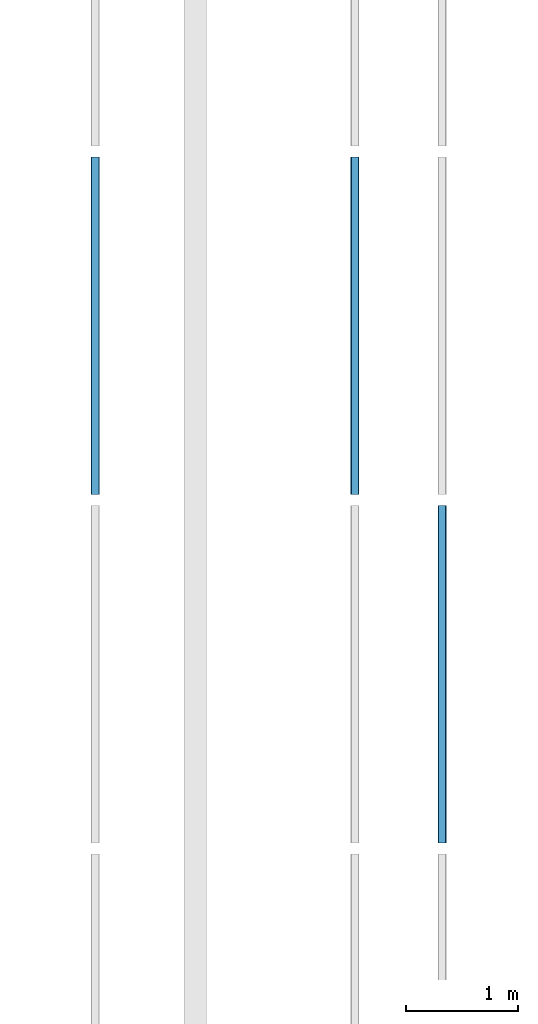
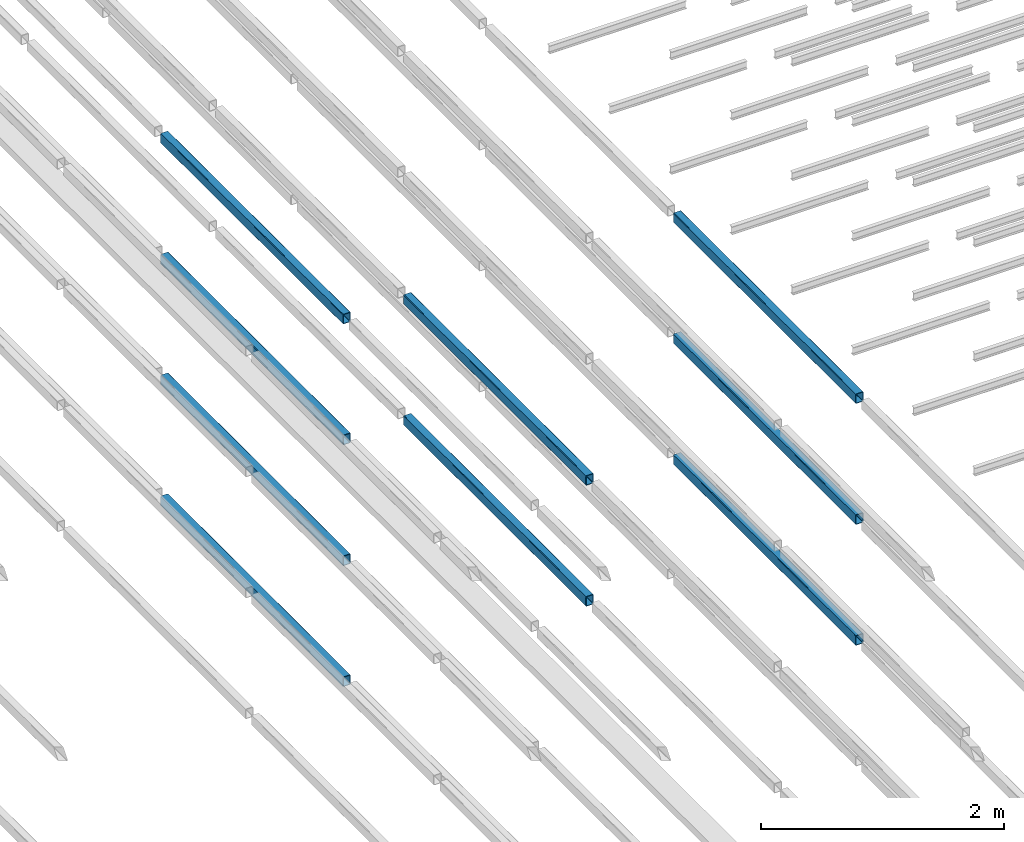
# One storey, part 76 of 290: 9 beams.
"""IFC2X3 building model written with IfcOpenShell, lengths in metres."""

from ifc_helpers import new_model, entity, si_unit, converted_unit, derived_unit, direction, frame, frame_2d, origin, place, context, subcontext, project, spatial, polyline, circle_curve, parameter, trimmed, segment, composite_curve, outline, extrude, material, type_object, element, save


model = new_model("IFC2X3")

# Units and contexts
model_context = context("Model", 3, precision=1e-05, world=origin(), true_north=direction((6.12303176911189e-17, 1.0)))
body_context = subcontext(model_context, "Body", "Model", "MODEL_VIEW")
ifc_project = project(units=[si_unit("LENGTHUNIT", "METRE"), si_unit("AREAUNIT", "SQUARE_METRE"), si_unit("VOLUMEUNIT", "CUBIC_METRE"), converted_unit("PLANEANGLEUNIT", "DEGREE", entity("IfcRatioMeasure", 0.0174532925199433), si_unit("PLANEANGLEUNIT", "RADIAN"), dimensions=[0, 0, 0, 0, 0, 0, 0]), si_unit("MASSUNIT", "GRAM", prefix="KILO"), derived_unit("MASSDENSITYUNIT", [(si_unit("MASSUNIT", "GRAM", prefix="KILO"), 1), (si_unit("LENGTHUNIT", "METRE"), -3)]), derived_unit("MOMENTOFINERTIAUNIT", [(si_unit("LENGTHUNIT", "METRE"), 4)]), si_unit("TIMEUNIT", "SECOND"), si_unit("FREQUENCYUNIT", "HERTZ"), si_unit("THERMODYNAMICTEMPERATUREUNIT", "DEGREE_CELSIUS"), derived_unit("THERMALTRANSMITTANCEUNIT", [(si_unit("MASSUNIT", "GRAM", prefix="KILO"), 1), (si_unit("THERMODYNAMICTEMPERATUREUNIT", "KELVIN"), -1), (si_unit("TIMEUNIT", "SECOND"), -3)]), derived_unit("VOLUMETRICFLOWRATEUNIT", [(si_unit("LENGTHUNIT", "METRE"), 3), (si_unit("TIMEUNIT", "SECOND"), -1)]), si_unit("ELECTRICCURRENTUNIT", "AMPERE"), si_unit("ELECTRICVOLTAGEUNIT", "VOLT"), si_unit("POWERUNIT", "WATT"), si_unit("FORCEUNIT", "NEWTON", prefix="KILO"), si_unit("ILLUMINANCEUNIT", "LUX"), si_unit("LUMINOUSFLUXUNIT", "LUMEN"), si_unit("LUMINOUSINTENSITYUNIT", "CANDELA"), derived_unit("USERDEFINED", [(si_unit("MASSUNIT", "GRAM", prefix="KILO"), -1), (si_unit("LENGTHUNIT", "METRE"), -2), (si_unit("TIMEUNIT", "SECOND"), 3), (si_unit("LUMINOUSFLUXUNIT", "LUMEN"), 1)]), derived_unit("LINEARVELOCITYUNIT", [(si_unit("LENGTHUNIT", "METRE"), 1), (si_unit("TIMEUNIT", "SECOND"), -1)]), si_unit("PRESSUREUNIT", "PASCAL"), derived_unit("USERDEFINED", [(si_unit("LENGTHUNIT", "METRE"), -2), (si_unit("MASSUNIT", "GRAM", prefix="KILO"), 1), (si_unit("TIMEUNIT", "SECOND"), -2)]), derived_unit("LINEARFORCEUNIT", [(si_unit("MASSUNIT", "GRAM", prefix="KILO"), 1), (si_unit("LENGTHUNIT", "METRE"), 1), (si_unit("TIMEUNIT", "SECOND"), -2), (si_unit("LENGTHUNIT", "METRE"), -1)]), derived_unit("PLANARFORCEUNIT", [(si_unit("MASSUNIT", "GRAM", prefix="KILO"), 1), (si_unit("LENGTHUNIT", "METRE"), 1), (si_unit("TIMEUNIT", "SECOND"), -2), (si_unit("LENGTHUNIT", "METRE"), -2)])], contexts=[model_context])

# Site, building, storey
site_placement = place(None, origin())
site = spatial("IfcSite", under=ifc_project, at=site_placement, Name="Default", CompositionType="ELEMENT")
building_placement = place(site_placement, origin())
building = spatial("IfcBuilding", under=site, at=building_placement, CompositionType="ELEMENT")
storey_placement = place(building_placement, frame((0.0, 0.0, 4.0)))
storey = spatial("IfcBuildingStorey", under=building, at=storey_placement, Name="01_OG", CompositionType="ELEMENT", Elevation=4.0)

# Beams
ifc_material = material(Name="Metall - Baustahl S235 blau")
beam_type = type_object("IfcBeamType", Name="RHS Träger (EN 10219-2):RHS 100 x 75 x 5", PredefinedType="NOTDEFINED")
beam_1_placement = place(storey_placement, frame((-178.465111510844, 33.3480889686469, -1.2), z_axis=(0.0, 0.0, 1.0), x_axis=(0.0, 1.0, 0.0)))
element("IfcBeam", 1, at=beam_1_placement, inside=storey, type_object=beam_type, material=ifc_material, Name="RHS Träger (EN 10219-2):RHS 100 x 75 x 5", ObjectType="RHS Träger (EN 10219-2):RHS 100 x 75 x 5", context=body_context, shape_type="SweptSolid", body=[
    extrude(outline(composite_curve([segment(polyline([(-0.0400000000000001, -0.0374999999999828), (0.0400000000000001, -0.0374999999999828)]), True, "CONTINUOUS"), segment(trimmed(circle_curve(frame_2d((0.0400000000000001, -0.0274999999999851), x_axis=(0.0, 1.0)), 0.01), [parameter(180.0)], [parameter(270.0)], True, "PARAMETER"), True, "CONTINUOUS"), segment(polyline([(0.05, -0.0274999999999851), (0.05, 0.0274999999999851)]), True, "CONTINUOUS"), segment(trimmed(circle_curve(frame_2d((0.0400000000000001, 0.0274999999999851), x_axis=(0.0, 1.0)), 0.01), [parameter(270.0)], [parameter(4.07110999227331e-13)], True, "PARAMETER"), True, "CONTINUOUS"), segment(polyline([(0.0400000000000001, 0.0375000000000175), (-0.0400000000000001, 0.0375000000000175)]), True, "CONTINUOUS"), segment(trimmed(circle_curve(frame_2d((-0.0400000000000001, 0.0274999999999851), x_axis=(0.0, 1.0)), 0.01), [parameter(360.0)], [parameter(90.0000000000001)], True, "PARAMETER"), True, "CONTINUOUS"), segment(polyline([(-0.05, 0.0274999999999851), (-0.05, -0.0274999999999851)]), True, "CONTINUOUS"), segment(trimmed(circle_curve(frame_2d((-0.0400000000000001, -0.0274999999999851), x_axis=(0.0, 1.0)), 0.01), [parameter(90.0000000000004)], [parameter(180.0)], True, "PARAMETER"), True, "CONTINUOUS")], self_intersect=False), holes=[composite_curve([segment(trimmed(circle_curve(frame_2d((-0.0400000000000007, 0.0274999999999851), x_axis=(0.0, 1.0)), 0.005), [parameter(360.0)], [parameter(89.9999999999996)], True, "PARAMETER"), False, "CONTINUOUS"), segment(polyline([(-0.0400000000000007, 0.0325000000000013), (0.039999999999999, 0.0325000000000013)]), True, "CONTINUOUS"), segment(trimmed(circle_curve(frame_2d((0.039999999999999, 0.0274999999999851), x_axis=(0.0, 1.0)), 0.005), [parameter(270.0)], [parameter(0.0)], True, "PARAMETER"), False, "CONTINUOUS"), segment(polyline([(0.044999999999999, 0.0274999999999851), (0.044999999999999, -0.0274999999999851)]), True, "CONTINUOUS"), segment(trimmed(circle_curve(frame_2d((0.039999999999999, -0.0274999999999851), x_axis=(0.0, 1.0)), 0.005), [parameter(180.0)], [parameter(269.999999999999)], True, "PARAMETER"), False, "CONTINUOUS"), segment(polyline([(0.039999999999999, -0.0325000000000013), (-0.0400000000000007, -0.0325000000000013)]), True, "CONTINUOUS"), segment(trimmed(circle_curve(frame_2d((-0.0400000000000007, -0.0274999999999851), x_axis=(0.0, 1.0)), 0.005), [parameter(90.0000000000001)], [parameter(180.0)], True, "PARAMETER"), False, "CONTINUOUS"), segment(polyline([(-0.0450000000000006, -0.0274999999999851), (-0.0450000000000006, 0.0274999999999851)]), True, "CONTINUOUS")], self_intersect=False)]), frame((9.99999999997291e-05, -0.0375000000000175, -0.0500000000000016), z_axis=(1.0, 0.0, 0.0), x_axis=(0.0, 0.0, -1.0)), (0.0, 0.0, 1.0), 2.9998),
])
beam_2_placement = place(storey_placement, frame((-178.465111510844, 33.3480889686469, 0.0150000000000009), z_axis=(0.0, 0.0, 1.0), x_axis=(0.0, 1.0, 0.0)))
element("IfcBeam", 2, at=beam_2_placement, inside=storey, type_object=beam_type, material=ifc_material, Name="RHS Träger (EN 10219-2):RHS 100 x 75 x 5", ObjectType="RHS Träger (EN 10219-2):RHS 100 x 75 x 5", context=body_context, shape_type="SweptSolid", body=[
    extrude(outline(composite_curve([segment(polyline([(-0.0400000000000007, -0.0374999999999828), (0.0399999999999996, -0.0374999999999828)]), True, "CONTINUOUS"), segment(trimmed(circle_curve(frame_2d((0.0399999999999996, -0.0274999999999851), x_axis=(0.0, 1.0)), 0.01), [parameter(180.0)], [parameter(270.0)], True, "PARAMETER"), True, "CONTINUOUS"), segment(polyline([(0.0499999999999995, -0.0274999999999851), (0.0499999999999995, 0.0274999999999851)]), True, "CONTINUOUS"), segment(trimmed(circle_curve(frame_2d((0.0399999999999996, 0.0274999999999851), x_axis=(0.0, 1.0)), 0.01), [parameter(270.0)], [parameter(4.07110999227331e-13)], True, "PARAMETER"), True, "CONTINUOUS"), segment(polyline([(0.0399999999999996, 0.0375000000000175), (-0.0400000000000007, 0.0375000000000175)]), True, "CONTINUOUS"), segment(trimmed(circle_curve(frame_2d((-0.0400000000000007, 0.0274999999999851), x_axis=(0.0, 1.0)), 0.01), [parameter(360.0)], [parameter(90.0000000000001)], True, "PARAMETER"), True, "CONTINUOUS"), segment(polyline([(-0.0500000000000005, 0.0274999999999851), (-0.0500000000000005, -0.0274999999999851)]), True, "CONTINUOUS"), segment(trimmed(circle_curve(frame_2d((-0.0400000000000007, -0.0274999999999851), x_axis=(0.0, 1.0)), 0.01), [parameter(90.0000000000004)], [parameter(180.0)], True, "PARAMETER"), True, "CONTINUOUS")], self_intersect=False), holes=[composite_curve([segment(trimmed(circle_curve(frame_2d((-0.0400000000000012, 0.0274999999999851), x_axis=(0.0, 1.0)), 0.005), [parameter(360.0)], [parameter(89.9999999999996)], True, "PARAMETER"), False, "CONTINUOUS"), segment(polyline([(-0.0400000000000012, 0.0325000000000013), (0.0399999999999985, 0.0325000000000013)]), True, "CONTINUOUS"), segment(trimmed(circle_curve(frame_2d((0.0399999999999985, 0.0274999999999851), x_axis=(0.0, 1.0)), 0.005), [parameter(270.0)], [parameter(0.0)], True, "PARAMETER"), False, "CONTINUOUS"), segment(polyline([(0.0449999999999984, 0.0274999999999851), (0.0449999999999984, -0.0274999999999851)]), True, "CONTINUOUS"), segment(trimmed(circle_curve(frame_2d((0.0399999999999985, -0.0274999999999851), x_axis=(0.0, 1.0)), 0.005), [parameter(180.0)], [parameter(269.999999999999)], True, "PARAMETER"), False, "CONTINUOUS"), segment(polyline([(0.0399999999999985, -0.0325000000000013), (-0.0400000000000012, -0.0325000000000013)]), True, "CONTINUOUS"), segment(trimmed(circle_curve(frame_2d((-0.0400000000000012, -0.0274999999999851), x_axis=(0.0, 1.0)), 0.005), [parameter(90.0000000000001)], [parameter(180.0)], True, "PARAMETER"), False, "CONTINUOUS"), segment(polyline([(-0.0450000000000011, -0.0274999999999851), (-0.0450000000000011, 0.0274999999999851)]), True, "CONTINUOUS")], self_intersect=False)]), frame((9.99999999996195e-05, -0.0375000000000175, -0.0500000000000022), z_axis=(1.0, 0.0, 0.0), x_axis=(0.0, 0.0, -1.0)), (0.0, 0.0, 1.0), 2.9998),
])
beam_3_placement = place(storey_placement, frame((-178.465111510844, 33.3480889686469, 1.23), z_axis=(0.0, 0.0, 1.0), x_axis=(0.0, 1.0, 0.0)))
element("IfcBeam", 3, at=beam_3_placement, inside=storey, type_object=beam_type, material=ifc_material, Name="RHS Träger (EN 10219-2):RHS 100 x 75 x 5", ObjectType="RHS Träger (EN 10219-2):RHS 100 x 75 x 5", context=body_context, shape_type="SweptSolid", body=[
    extrude(outline(composite_curve([segment(polyline([(-0.0399999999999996, -0.0374999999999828), (0.0399999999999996, -0.0374999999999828)]), True, "CONTINUOUS"), segment(trimmed(circle_curve(frame_2d((0.0399999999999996, -0.0274999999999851), x_axis=(0.0, 1.0)), 0.01), [parameter(180.0)], [parameter(270.0)], True, "PARAMETER"), True, "CONTINUOUS"), segment(polyline([(0.0500000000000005, -0.0274999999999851), (0.0500000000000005, 0.0274999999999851)]), True, "CONTINUOUS"), segment(trimmed(circle_curve(frame_2d((0.0399999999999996, 0.0274999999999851), x_axis=(0.0, 1.0)), 0.01), [parameter(270.0)], [parameter(4.07110999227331e-13)], True, "PARAMETER"), True, "CONTINUOUS"), segment(polyline([(0.0399999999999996, 0.0375000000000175), (-0.0399999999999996, 0.0375000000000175)]), True, "CONTINUOUS"), segment(trimmed(circle_curve(frame_2d((-0.0399999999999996, 0.0274999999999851), x_axis=(0.0, 1.0)), 0.01), [parameter(360.0)], [parameter(90.0000000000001)], True, "PARAMETER"), True, "CONTINUOUS"), segment(polyline([(-0.0499999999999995, 0.0274999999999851), (-0.0499999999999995, -0.0274999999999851)]), True, "CONTINUOUS"), segment(trimmed(circle_curve(frame_2d((-0.0399999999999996, -0.0274999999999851), x_axis=(0.0, 1.0)), 0.01), [parameter(90.0000000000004)], [parameter(180.0)], True, "PARAMETER"), True, "CONTINUOUS")], self_intersect=False), holes=[composite_curve([segment(trimmed(circle_curve(frame_2d((-0.0400000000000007, 0.0274999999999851), x_axis=(0.0, 1.0)), 0.005), [parameter(360.0)], [parameter(89.9999999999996)], True, "PARAMETER"), False, "CONTINUOUS"), segment(polyline([(-0.0400000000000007, 0.0325000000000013), (0.0399999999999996, 0.0325000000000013)]), True, "CONTINUOUS"), segment(trimmed(circle_curve(frame_2d((0.0399999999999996, 0.0274999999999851), x_axis=(0.0, 1.0)), 0.005), [parameter(270.0)], [parameter(0.0)], True, "PARAMETER"), False, "CONTINUOUS"), segment(polyline([(0.0449999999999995, 0.0274999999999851), (0.0449999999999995, -0.0274999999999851)]), True, "CONTINUOUS"), segment(trimmed(circle_curve(frame_2d((0.0399999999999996, -0.0274999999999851), x_axis=(0.0, 1.0)), 0.005), [parameter(180.0)], [parameter(269.999999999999)], True, "PARAMETER"), False, "CONTINUOUS"), segment(polyline([(0.0399999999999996, -0.0325000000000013), (-0.0400000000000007, -0.0325000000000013)]), True, "CONTINUOUS"), segment(trimmed(circle_curve(frame_2d((-0.0400000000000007, -0.0274999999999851), x_axis=(0.0, 1.0)), 0.005), [parameter(90.0000000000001)], [parameter(180.0)], True, "PARAMETER"), False, "CONTINUOUS"), segment(polyline([(-0.0450000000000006, -0.0274999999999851), (-0.0450000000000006, 0.0274999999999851)]), True, "CONTINUOUS")], self_intersect=False)]), frame((9.99999999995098e-05, -0.0375000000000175, -0.0500000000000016), z_axis=(1.0, 0.0, 0.0), x_axis=(0.0, 0.0, -1.0)), (0.0, 0.0, 1.0), 2.9998),
])
beam_4_placement = place(storey_placement, frame((-178.465111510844, 33.3480889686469, 2.445), z_axis=(0.0, 0.0, 1.0), x_axis=(0.0, 1.0, 0.0)))
element("IfcBeam", 4, at=beam_4_placement, inside=storey, type_object=beam_type, material=ifc_material, Name="RHS Träger (EN 10219-2):RHS 100 x 75 x 5", ObjectType="RHS Träger (EN 10219-2):RHS 100 x 75 x 5", context=body_context, shape_type="SweptSolid", body=[
    extrude(outline(composite_curve([segment(polyline([(-0.0399999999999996, -0.0374999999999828), (0.0399999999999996, -0.0374999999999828)]), True, "CONTINUOUS"), segment(trimmed(circle_curve(frame_2d((0.0399999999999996, -0.0274999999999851), x_axis=(0.0, 1.0)), 0.01), [parameter(180.0)], [parameter(270.0)], True, "PARAMETER"), True, "CONTINUOUS"), segment(polyline([(0.0500000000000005, -0.0274999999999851), (0.0500000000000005, 0.0274999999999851)]), True, "CONTINUOUS"), segment(trimmed(circle_curve(frame_2d((0.0399999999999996, 0.0274999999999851), x_axis=(0.0, 1.0)), 0.01), [parameter(270.0)], [parameter(4.07110999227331e-13)], True, "PARAMETER"), True, "CONTINUOUS"), segment(polyline([(0.0399999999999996, 0.0375000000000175), (-0.0399999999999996, 0.0375000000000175)]), True, "CONTINUOUS"), segment(trimmed(circle_curve(frame_2d((-0.0399999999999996, 0.0274999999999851), x_axis=(0.0, 1.0)), 0.01), [parameter(360.0)], [parameter(90.0000000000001)], True, "PARAMETER"), True, "CONTINUOUS"), segment(polyline([(-0.0499999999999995, 0.0274999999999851), (-0.0499999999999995, -0.0274999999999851)]), True, "CONTINUOUS"), segment(trimmed(circle_curve(frame_2d((-0.0399999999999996, -0.0274999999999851), x_axis=(0.0, 1.0)), 0.01), [parameter(90.0000000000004)], [parameter(180.0)], True, "PARAMETER"), True, "CONTINUOUS")], self_intersect=False), holes=[composite_curve([segment(trimmed(circle_curve(frame_2d((-0.0400000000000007, 0.0274999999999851), x_axis=(0.0, 1.0)), 0.005), [parameter(360.0)], [parameter(89.9999999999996)], True, "PARAMETER"), False, "CONTINUOUS"), segment(polyline([(-0.0400000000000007, 0.0325000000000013), (0.0399999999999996, 0.0325000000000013)]), True, "CONTINUOUS"), segment(trimmed(circle_curve(frame_2d((0.0399999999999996, 0.0274999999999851), x_axis=(0.0, 1.0)), 0.005), [parameter(270.0)], [parameter(0.0)], True, "PARAMETER"), False, "CONTINUOUS"), segment(polyline([(0.0449999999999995, 0.0274999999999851), (0.0449999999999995, -0.0274999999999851)]), True, "CONTINUOUS"), segment(trimmed(circle_curve(frame_2d((0.0399999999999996, -0.0274999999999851), x_axis=(0.0, 1.0)), 0.005), [parameter(180.0)], [parameter(269.999999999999)], True, "PARAMETER"), False, "CONTINUOUS"), segment(polyline([(0.0399999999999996, -0.0325000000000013), (-0.0400000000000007, -0.0325000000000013)]), True, "CONTINUOUS"), segment(trimmed(circle_curve(frame_2d((-0.0400000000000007, -0.0274999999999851), x_axis=(0.0, 1.0)), 0.005), [parameter(90.0000000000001)], [parameter(180.0)], True, "PARAMETER"), False, "CONTINUOUS"), segment(polyline([(-0.0450000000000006, -0.0274999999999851), (-0.0450000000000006, 0.0274999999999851)]), True, "CONTINUOUS")], self_intersect=False)]), frame((9.99999999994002e-05, -0.0375000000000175, -0.0500000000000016), z_axis=(1.0, 0.0, 0.0), x_axis=(0.0, 0.0, -1.0)), (0.0, 0.0, 1.0), 2.9998),
])
beam_5_placement = place(storey_placement, frame((-175.305111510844, 30.248088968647, 0.0150000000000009), z_axis=(0.0, 0.0, 1.0), x_axis=(0.0, 1.0, 0.0)))
element("IfcBeam", 5, at=beam_5_placement, inside=storey, type_object=beam_type, material=ifc_material, Name="RHS Träger (EN 10219-2):RHS 100 x 75 x 5", ObjectType="RHS Träger (EN 10219-2):RHS 100 x 75 x 5", context=body_context, shape_type="SweptSolid", body=[
    extrude(outline(composite_curve([segment(trimmed(circle_curve(frame_2d((-0.0274999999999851, -0.0400000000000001), x_axis=(1.0, 0.0)), 0.01), [parameter(180.0)], [parameter(270.0)], True, "PARAMETER"), True, "CONTINUOUS"), segment(polyline([(-0.0274999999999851, -0.05), (0.0274999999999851, -0.05)]), True, "CONTINUOUS"), segment(trimmed(circle_curve(frame_2d((0.0274999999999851, -0.0400000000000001), x_axis=(1.0, 0.0)), 0.01), [parameter(270.0)], [parameter(5.08888749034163e-14)], True, "PARAMETER"), True, "CONTINUOUS"), segment(polyline([(0.0375000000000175, -0.0400000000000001), (0.0375000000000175, 0.0400000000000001)]), True, "CONTINUOUS"), segment(trimmed(circle_curve(frame_2d((0.0274999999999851, 0.0400000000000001), x_axis=(1.0, 0.0)), 0.01), [parameter(360.0)], [parameter(89.9999999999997)], True, "PARAMETER"), True, "CONTINUOUS"), segment(polyline([(0.0274999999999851, 0.05), (-0.0274999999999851, 0.05)]), True, "CONTINUOUS"), segment(trimmed(circle_curve(frame_2d((-0.0274999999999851, 0.0400000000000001), x_axis=(1.0, 0.0)), 0.01), [parameter(90.0000000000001)], [parameter(180.0)], True, "PARAMETER"), True, "CONTINUOUS"), segment(polyline([(-0.0374999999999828, 0.0400000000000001), (-0.0374999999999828, -0.0400000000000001)]), True, "CONTINUOUS")], self_intersect=False), holes=[composite_curve([segment(polyline([(0.0274999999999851, -0.0450000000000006), (-0.0274999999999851, -0.0450000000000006)]), True, "CONTINUOUS"), segment(trimmed(circle_curve(frame_2d((-0.0274999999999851, -0.0400000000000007), x_axis=(1.0, 0.0)), 0.005), [parameter(180.0)], [parameter(270.0)], True, "PARAMETER"), False, "CONTINUOUS"), segment(polyline([(-0.0325000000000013, -0.0400000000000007), (-0.0325000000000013, 0.039999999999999)]), True, "CONTINUOUS"), segment(trimmed(circle_curve(frame_2d((-0.0274999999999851, 0.039999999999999), x_axis=(1.0, 0.0)), 0.005), [parameter(90.0000000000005)], [parameter(180.0)], True, "PARAMETER"), False, "CONTINUOUS"), segment(polyline([(-0.0274999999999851, 0.044999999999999), (0.0274999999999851, 0.044999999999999)]), True, "CONTINUOUS"), segment(trimmed(circle_curve(frame_2d((0.0274999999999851, 0.039999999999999), x_axis=(1.0, 0.0)), 0.005), [parameter(0.0)], [parameter(90.0000000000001)], True, "PARAMETER"), False, "CONTINUOUS"), segment(polyline([(0.0325000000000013, 0.039999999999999), (0.0325000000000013, -0.0400000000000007)]), True, "CONTINUOUS"), segment(trimmed(circle_curve(frame_2d((0.0274999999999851, -0.0400000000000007), x_axis=(1.0, 0.0)), 0.005), [parameter(270.0)], [parameter(4.07110999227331e-13)], True, "PARAMETER"), False, "CONTINUOUS")], self_intersect=False)]), frame((0.000100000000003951, 0.0375000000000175, -0.0500000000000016), z_axis=(1.0, 0.0, 0.0), x_axis=(0.0, -1.0, 0.0)), (0.0, 0.0, 1.0), 2.9998),
])
beam_6_placement = place(storey_placement, frame((-175.305111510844, 30.248088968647, 1.23), z_axis=(0.0, 0.0, 1.0), x_axis=(0.0, 1.0, 0.0)))
element("IfcBeam", 6, at=beam_6_placement, inside=storey, type_object=beam_type, material=ifc_material, Name="RHS Träger (EN 10219-2):RHS 100 x 75 x 5", ObjectType="RHS Träger (EN 10219-2):RHS 100 x 75 x 5", context=body_context, shape_type="SweptSolid", body=[
    extrude(outline(composite_curve([segment(trimmed(circle_curve(frame_2d((-0.0274999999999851, -0.0399999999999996), x_axis=(1.0, 0.0)), 0.01), [parameter(180.0)], [parameter(270.0)], True, "PARAMETER"), True, "CONTINUOUS"), segment(polyline([(-0.0274999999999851, -0.0499999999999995), (0.0274999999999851, -0.0499999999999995)]), True, "CONTINUOUS"), segment(trimmed(circle_curve(frame_2d((0.0274999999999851, -0.0399999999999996), x_axis=(1.0, 0.0)), 0.01), [parameter(270.0)], [parameter(5.08888749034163e-14)], True, "PARAMETER"), True, "CONTINUOUS"), segment(polyline([(0.0375000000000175, -0.0399999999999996), (0.0375000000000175, 0.0399999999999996)]), True, "CONTINUOUS"), segment(trimmed(circle_curve(frame_2d((0.0274999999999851, 0.0399999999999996), x_axis=(1.0, 0.0)), 0.01), [parameter(360.0)], [parameter(89.9999999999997)], True, "PARAMETER"), True, "CONTINUOUS"), segment(polyline([(0.0274999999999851, 0.0500000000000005), (-0.0274999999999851, 0.0500000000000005)]), True, "CONTINUOUS"), segment(trimmed(circle_curve(frame_2d((-0.0274999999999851, 0.0399999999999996), x_axis=(1.0, 0.0)), 0.01), [parameter(90.0000000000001)], [parameter(180.0)], True, "PARAMETER"), True, "CONTINUOUS"), segment(polyline([(-0.0374999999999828, 0.0399999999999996), (-0.0374999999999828, -0.0399999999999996)]), True, "CONTINUOUS")], self_intersect=False), holes=[composite_curve([segment(polyline([(0.0274999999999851, -0.0450000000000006), (-0.0274999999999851, -0.0450000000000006)]), True, "CONTINUOUS"), segment(trimmed(circle_curve(frame_2d((-0.0274999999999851, -0.0400000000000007), x_axis=(1.0, 0.0)), 0.005), [parameter(180.0)], [parameter(270.0)], True, "PARAMETER"), False, "CONTINUOUS"), segment(polyline([(-0.0325000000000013, -0.0400000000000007), (-0.0325000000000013, 0.0399999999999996)]), True, "CONTINUOUS"), segment(trimmed(circle_curve(frame_2d((-0.0274999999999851, 0.0399999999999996), x_axis=(1.0, 0.0)), 0.005), [parameter(90.0000000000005)], [parameter(180.0)], True, "PARAMETER"), False, "CONTINUOUS"), segment(polyline([(-0.0274999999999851, 0.0449999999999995), (0.0274999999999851, 0.0449999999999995)]), True, "CONTINUOUS"), segment(trimmed(circle_curve(frame_2d((0.0274999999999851, 0.0399999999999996), x_axis=(1.0, 0.0)), 0.005), [parameter(0.0)], [parameter(90.0000000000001)], True, "PARAMETER"), False, "CONTINUOUS"), segment(polyline([(0.0325000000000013, 0.0399999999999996), (0.0325000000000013, -0.0400000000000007)]), True, "CONTINUOUS"), segment(trimmed(circle_curve(frame_2d((0.0274999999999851, -0.0400000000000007), x_axis=(1.0, 0.0)), 0.005), [parameter(270.0)], [parameter(4.07110999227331e-13)], True, "PARAMETER"), False, "CONTINUOUS")], self_intersect=False)]), frame((0.000100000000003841, 0.0375000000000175, -0.0500000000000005), z_axis=(1.0, 0.0, 0.0), x_axis=(0.0, -1.0, 0.0)), (0.0, 0.0, 1.0), 2.9998),
])
beam_7_placement = place(storey_placement, frame((-175.305111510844, 30.248088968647, 2.445), z_axis=(0.0, 0.0, 1.0), x_axis=(0.0, 1.0, 0.0)))
element("IfcBeam", 7, at=beam_7_placement, inside=storey, type_object=beam_type, material=ifc_material, Name="RHS Träger (EN 10219-2):RHS 100 x 75 x 5", ObjectType="RHS Träger (EN 10219-2):RHS 100 x 75 x 5", context=body_context, shape_type="SweptSolid", body=[
    extrude(outline(composite_curve([segment(trimmed(circle_curve(frame_2d((-0.0274999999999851, -0.0399999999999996), x_axis=(1.0, 0.0)), 0.01), [parameter(180.0)], [parameter(270.0)], True, "PARAMETER"), True, "CONTINUOUS"), segment(polyline([(-0.0274999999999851, -0.0499999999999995), (0.0274999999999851, -0.0499999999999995)]), True, "CONTINUOUS"), segment(trimmed(circle_curve(frame_2d((0.0274999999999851, -0.0399999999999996), x_axis=(1.0, 0.0)), 0.01), [parameter(270.0)], [parameter(5.08888749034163e-14)], True, "PARAMETER"), True, "CONTINUOUS"), segment(polyline([(0.0375000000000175, -0.0399999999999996), (0.0375000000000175, 0.0399999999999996)]), True, "CONTINUOUS"), segment(trimmed(circle_curve(frame_2d((0.0274999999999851, 0.0399999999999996), x_axis=(1.0, 0.0)), 0.01), [parameter(360.0)], [parameter(89.9999999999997)], True, "PARAMETER"), True, "CONTINUOUS"), segment(polyline([(0.0274999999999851, 0.0500000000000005), (-0.0274999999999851, 0.0500000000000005)]), True, "CONTINUOUS"), segment(trimmed(circle_curve(frame_2d((-0.0274999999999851, 0.0399999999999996), x_axis=(1.0, 0.0)), 0.01), [parameter(90.0000000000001)], [parameter(180.0)], True, "PARAMETER"), True, "CONTINUOUS"), segment(polyline([(-0.0374999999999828, 0.0399999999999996), (-0.0374999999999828, -0.0399999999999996)]), True, "CONTINUOUS")], self_intersect=False), holes=[composite_curve([segment(polyline([(0.0274999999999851, -0.0450000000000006), (-0.0274999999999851, -0.0450000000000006)]), True, "CONTINUOUS"), segment(trimmed(circle_curve(frame_2d((-0.0274999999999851, -0.0400000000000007), x_axis=(1.0, 0.0)), 0.005), [parameter(180.0)], [parameter(270.0)], True, "PARAMETER"), False, "CONTINUOUS"), segment(polyline([(-0.0325000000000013, -0.0400000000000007), (-0.0325000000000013, 0.0399999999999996)]), True, "CONTINUOUS"), segment(trimmed(circle_curve(frame_2d((-0.0274999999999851, 0.0399999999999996), x_axis=(1.0, 0.0)), 0.005), [parameter(90.0000000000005)], [parameter(180.0)], True, "PARAMETER"), False, "CONTINUOUS"), segment(polyline([(-0.0274999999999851, 0.0449999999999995), (0.0274999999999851, 0.0449999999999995)]), True, "CONTINUOUS"), segment(trimmed(circle_curve(frame_2d((0.0274999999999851, 0.0399999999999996), x_axis=(1.0, 0.0)), 0.005), [parameter(0.0)], [parameter(90.0000000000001)], True, "PARAMETER"), False, "CONTINUOUS"), segment(polyline([(0.0325000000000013, 0.0399999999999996), (0.0325000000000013, -0.0400000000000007)]), True, "CONTINUOUS"), segment(trimmed(circle_curve(frame_2d((0.0274999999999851, -0.0400000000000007), x_axis=(1.0, 0.0)), 0.005), [parameter(270.0)], [parameter(4.07110999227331e-13)], True, "PARAMETER"), False, "CONTINUOUS")], self_intersect=False)]), frame((0.000100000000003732, 0.0375000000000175, -0.0500000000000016), z_axis=(1.0, 0.0, 0.0), x_axis=(0.0, -1.0, 0.0)), (0.0, 0.0, 1.0), 2.9998),
])
beam_8_placement = place(storey_placement, frame((-176.155111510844, 33.3480889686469, -1.2), z_axis=(0.0, 0.0, 1.0), x_axis=(0.0, 1.0, 0.0)))
element("IfcBeam", 8, at=beam_8_placement, inside=storey, type_object=beam_type, material=ifc_material, Name="RHS Träger (EN 10219-2):RHS 100 x 75 x 5", ObjectType="RHS Träger (EN 10219-2):RHS 100 x 75 x 5", context=body_context, shape_type="SweptSolid", body=[
    extrude(outline(composite_curve([segment(polyline([(-0.0400000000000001, -0.0374999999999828), (0.0400000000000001, -0.0374999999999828)]), True, "CONTINUOUS"), segment(trimmed(circle_curve(frame_2d((0.0400000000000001, -0.0274999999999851), x_axis=(0.0, 1.0)), 0.01), [parameter(180.0)], [parameter(270.0)], True, "PARAMETER"), True, "CONTINUOUS"), segment(polyline([(0.05, -0.0274999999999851), (0.05, 0.0274999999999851)]), True, "CONTINUOUS"), segment(trimmed(circle_curve(frame_2d((0.0400000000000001, 0.0274999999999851), x_axis=(0.0, 1.0)), 0.01), [parameter(270.0)], [parameter(4.07110999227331e-13)], True, "PARAMETER"), True, "CONTINUOUS"), segment(polyline([(0.0400000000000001, 0.0375000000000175), (-0.0400000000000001, 0.0375000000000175)]), True, "CONTINUOUS"), segment(trimmed(circle_curve(frame_2d((-0.0400000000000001, 0.0274999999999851), x_axis=(0.0, 1.0)), 0.01), [parameter(360.0)], [parameter(90.0000000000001)], True, "PARAMETER"), True, "CONTINUOUS"), segment(polyline([(-0.05, 0.0274999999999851), (-0.05, -0.0274999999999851)]), True, "CONTINUOUS"), segment(trimmed(circle_curve(frame_2d((-0.0400000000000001, -0.0274999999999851), x_axis=(0.0, 1.0)), 0.01), [parameter(90.0000000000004)], [parameter(180.0)], True, "PARAMETER"), True, "CONTINUOUS")], self_intersect=False), holes=[composite_curve([segment(trimmed(circle_curve(frame_2d((-0.0400000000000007, 0.0274999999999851), x_axis=(0.0, 1.0)), 0.005), [parameter(360.0)], [parameter(89.9999999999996)], True, "PARAMETER"), False, "CONTINUOUS"), segment(polyline([(-0.0400000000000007, 0.0325000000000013), (0.039999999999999, 0.0325000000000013)]), True, "CONTINUOUS"), segment(trimmed(circle_curve(frame_2d((0.039999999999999, 0.0274999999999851), x_axis=(0.0, 1.0)), 0.005), [parameter(270.0)], [parameter(0.0)], True, "PARAMETER"), False, "CONTINUOUS"), segment(polyline([(0.044999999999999, 0.0274999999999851), (0.044999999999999, -0.0274999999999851)]), True, "CONTINUOUS"), segment(trimmed(circle_curve(frame_2d((0.039999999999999, -0.0274999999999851), x_axis=(0.0, 1.0)), 0.005), [parameter(180.0)], [parameter(269.999999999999)], True, "PARAMETER"), False, "CONTINUOUS"), segment(polyline([(0.039999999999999, -0.0325000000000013), (-0.0400000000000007, -0.0325000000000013)]), True, "CONTINUOUS"), segment(trimmed(circle_curve(frame_2d((-0.0400000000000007, -0.0274999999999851), x_axis=(0.0, 1.0)), 0.005), [parameter(90.0000000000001)], [parameter(180.0)], True, "PARAMETER"), False, "CONTINUOUS"), segment(polyline([(-0.0450000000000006, -0.0274999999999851), (-0.0450000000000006, 0.0274999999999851)]), True, "CONTINUOUS")], self_intersect=False)]), frame((9.99999999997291e-05, -0.0375000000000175, -0.0500000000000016), z_axis=(1.0, 0.0, 0.0), x_axis=(0.0, 0.0, -1.0)), (0.0, 0.0, 1.0), 2.9998),
])
beam_9_placement = place(storey_placement, frame((-176.155111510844, 33.3480889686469, 0.0150000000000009), z_axis=(0.0, 0.0, 1.0), x_axis=(0.0, 1.0, 0.0)))
element("IfcBeam", 9, at=beam_9_placement, inside=storey, type_object=beam_type, material=ifc_material, Name="RHS Träger (EN 10219-2):RHS 100 x 75 x 5", ObjectType="RHS Träger (EN 10219-2):RHS 100 x 75 x 5", context=body_context, shape_type="SweptSolid", body=[
    extrude(outline(composite_curve([segment(polyline([(-0.0400000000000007, -0.0374999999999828), (0.0399999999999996, -0.0374999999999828)]), True, "CONTINUOUS"), segment(trimmed(circle_curve(frame_2d((0.0399999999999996, -0.0274999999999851), x_axis=(0.0, 1.0)), 0.01), [parameter(180.0)], [parameter(270.0)], True, "PARAMETER"), True, "CONTINUOUS"), segment(polyline([(0.0499999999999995, -0.0274999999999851), (0.0499999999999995, 0.0274999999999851)]), True, "CONTINUOUS"), segment(trimmed(circle_curve(frame_2d((0.0399999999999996, 0.0274999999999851), x_axis=(0.0, 1.0)), 0.01), [parameter(270.0)], [parameter(4.07110999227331e-13)], True, "PARAMETER"), True, "CONTINUOUS"), segment(polyline([(0.0399999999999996, 0.0375000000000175), (-0.0400000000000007, 0.0375000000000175)]), True, "CONTINUOUS"), segment(trimmed(circle_curve(frame_2d((-0.0400000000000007, 0.0274999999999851), x_axis=(0.0, 1.0)), 0.01), [parameter(360.0)], [parameter(90.0000000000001)], True, "PARAMETER"), True, "CONTINUOUS"), segment(polyline([(-0.0500000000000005, 0.0274999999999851), (-0.0500000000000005, -0.0274999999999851)]), True, "CONTINUOUS"), segment(trimmed(circle_curve(frame_2d((-0.0400000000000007, -0.0274999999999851), x_axis=(0.0, 1.0)), 0.01), [parameter(90.0000000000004)], [parameter(180.0)], True, "PARAMETER"), True, "CONTINUOUS")], self_intersect=False), holes=[composite_curve([segment(trimmed(circle_curve(frame_2d((-0.0400000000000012, 0.0274999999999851), x_axis=(0.0, 1.0)), 0.005), [parameter(360.0)], [parameter(89.9999999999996)], True, "PARAMETER"), False, "CONTINUOUS"), segment(polyline([(-0.0400000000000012, 0.0325000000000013), (0.0399999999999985, 0.0325000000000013)]), True, "CONTINUOUS"), segment(trimmed(circle_curve(frame_2d((0.0399999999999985, 0.0274999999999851), x_axis=(0.0, 1.0)), 0.005), [parameter(270.0)], [parameter(0.0)], True, "PARAMETER"), False, "CONTINUOUS"), segment(polyline([(0.0449999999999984, 0.0274999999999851), (0.0449999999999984, -0.0274999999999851)]), True, "CONTINUOUS"), segment(trimmed(circle_curve(frame_2d((0.0399999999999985, -0.0274999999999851), x_axis=(0.0, 1.0)), 0.005), [parameter(180.0)], [parameter(269.999999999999)], True, "PARAMETER"), False, "CONTINUOUS"), segment(polyline([(0.0399999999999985, -0.0325000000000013), (-0.0400000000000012, -0.0325000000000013)]), True, "CONTINUOUS"), segment(trimmed(circle_curve(frame_2d((-0.0400000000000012, -0.0274999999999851), x_axis=(0.0, 1.0)), 0.005), [parameter(90.0000000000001)], [parameter(180.0)], True, "PARAMETER"), False, "CONTINUOUS"), segment(polyline([(-0.0450000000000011, -0.0274999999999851), (-0.0450000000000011, 0.0274999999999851)]), True, "CONTINUOUS")], self_intersect=False)]), frame((9.99999999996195e-05, -0.0375000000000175, -0.0500000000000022), z_axis=(1.0, 0.0, 0.0), x_axis=(0.0, 0.0, -1.0)), (0.0, 0.0, 1.0), 2.9998),
])

save(model, "model.ifc")
